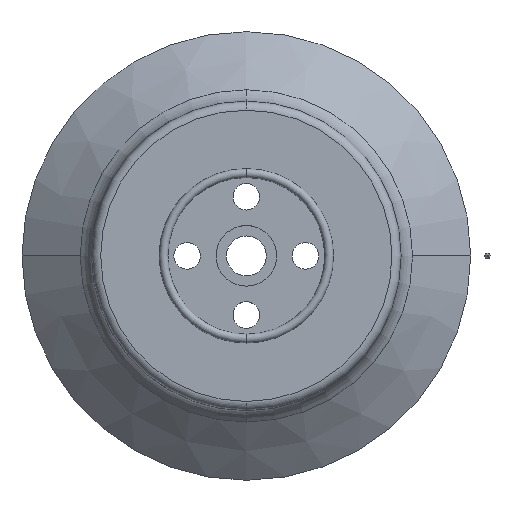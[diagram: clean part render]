
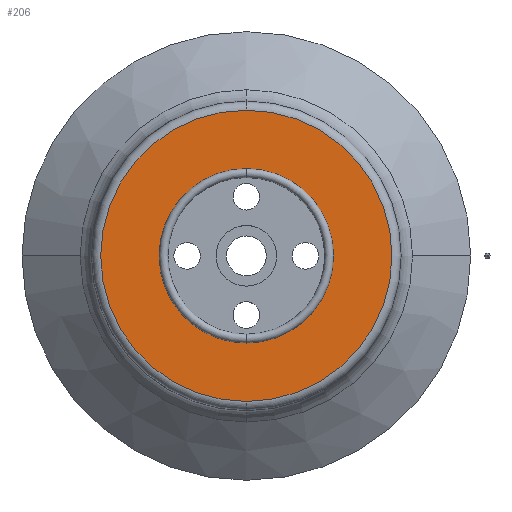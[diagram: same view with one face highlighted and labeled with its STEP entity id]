
A CAD part, top view. The second image highlights one B-rep face of the part: STEP entity #206.
In plain terms, the highlighted planar face has unit normal (0, 0, 1).
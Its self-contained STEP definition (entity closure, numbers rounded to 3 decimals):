
#206=ADVANCED_FACE('',(#435,#436),#437,.T.);
#435=FACE_OUTER_BOUND('',#681,.T.);
#436=FACE_BOUND('',#682,.T.);
#437=PLANE('',#683);
#681=EDGE_LOOP('',(#1201,#1202));
#682=EDGE_LOOP('',(#1203,#1204));
#683=AXIS2_PLACEMENT_3D('',#1205,#1206,#1207);
#1201=ORIENTED_EDGE('',*,*,#1482,.F.);
#1202=ORIENTED_EDGE('',*,*,#1582,.F.);
#1203=ORIENTED_EDGE('',*,*,#1580,.T.);
#1204=ORIENTED_EDGE('',*,*,#1489,.T.);
#1205=CARTESIAN_POINT('',(39.375,0.,31.001));
#1206=DIRECTION('',(0.0,0.,1.0));
#1207=DIRECTION('',(1.0,-0.0,0.0));
#1482=EDGE_CURVE('',#1788,#1791,#1792,.T.);
#1489=EDGE_CURVE('',#1797,#1801,#1803,.T.);
#1580=EDGE_CURVE('',#1801,#1797,#1934,.T.);
#1582=EDGE_CURVE('',#1791,#1788,#1936,.T.);
#1788=VERTEX_POINT('',#2165);
#1791=VERTEX_POINT('',#2168);
#1792=CIRCLE('',#2169,49.25);
#1797=VERTEX_POINT('',#2174);
#1801=VERTEX_POINT('',#2178);
#1803=CIRCLE('',#2180,29.5);
#1934=CIRCLE('',#2331,29.5);
#1936=CIRCLE('',#2333,49.25);
#2165=CARTESIAN_POINT('',(0.,49.25,31.001));
#2168=CARTESIAN_POINT('',(0.,-49.25,31.001));
#2169=AXIS2_PLACEMENT_3D('',#2578,#2579,#2580);
#2174=CARTESIAN_POINT('',(0.,29.5,31.001));
#2178=CARTESIAN_POINT('',(0.,-29.5,31.001));
#2180=AXIS2_PLACEMENT_3D('',#2596,#2597,#2598);
#2331=AXIS2_PLACEMENT_3D('',#2745,#2746,#2747);
#2333=AXIS2_PLACEMENT_3D('',#2748,#2749,#2750);
#2578=CARTESIAN_POINT('',(0.0,0.,31.001));
#2579=DIRECTION('',(0.0,0.,-1.0));
#2580=DIRECTION('',(1.0,0.0,0.0));
#2596=CARTESIAN_POINT('',(0.0,0.,31.001));
#2597=DIRECTION('',(0.0,0.,-1.0));
#2598=DIRECTION('',(1.0,0.0,0.0));
#2745=CARTESIAN_POINT('',(0.0,0.,31.001));
#2746=DIRECTION('',(0.0,0.,-1.0));
#2747=DIRECTION('',(1.0,0.0,0.0));
#2748=CARTESIAN_POINT('',(0.0,0.,31.001));
#2749=DIRECTION('',(0.0,0.,-1.0));
#2750=DIRECTION('',(1.0,0.0,0.0));
